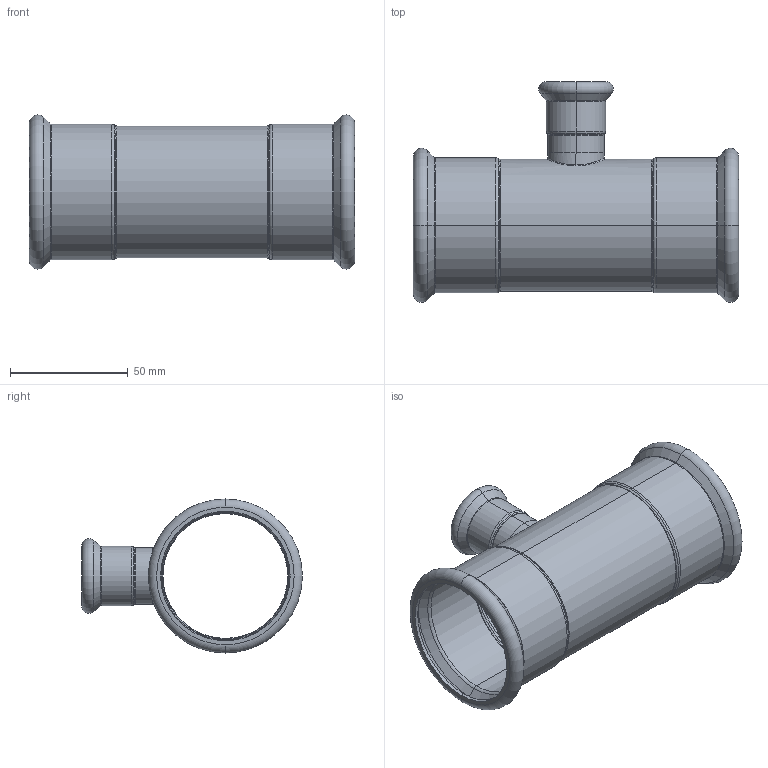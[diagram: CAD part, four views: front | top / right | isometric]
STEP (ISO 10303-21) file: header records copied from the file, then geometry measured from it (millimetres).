
FILE_DESCRIPTION (( 'STEP AP203' ), '1' );
FILE_NAME ('GDA5208.STEP', '2019-01-12T05:55:01', ( '' ), ( '' ), 'SwSTEP 2.0', 'SolidWorks 2015', '' );
FILE_SCHEMA (( 'CONFIG_CONTROL_DESIGN' ));
Length unit declared in the file: millimetre
Products named in the file (3): T(R)-¢ñ-54¡Á22''; T-ｉ-01-22; GDA5208
Assembly tree (2 placements, depth 2):
  GDA5208
    T(R)-¢ñ-54¡Á22''
    T-ｉ-01-22
Bounding box: 138 x 93.69 x 65.39 mm (x, y, z)
Volume: 42349 mm3; surface area: 57313.7 mm2
Topology: 2 solids, 2 shells, 114 faces, 234 edges, 128 vertices
Faces by surface type: torus 48, cylinder 30, cone 24, plane 8, bspline 4
Entity records: 4278 total; most frequent: CARTESIAN_POINT 1488, DIRECTION 620, ORIENTED_EDGE 468, AXIS2_PLACEMENT_3D 283, EDGE_CURVE 234, CIRCLE 168, VERTEX_POINT 128, EDGE_LOOP 124
